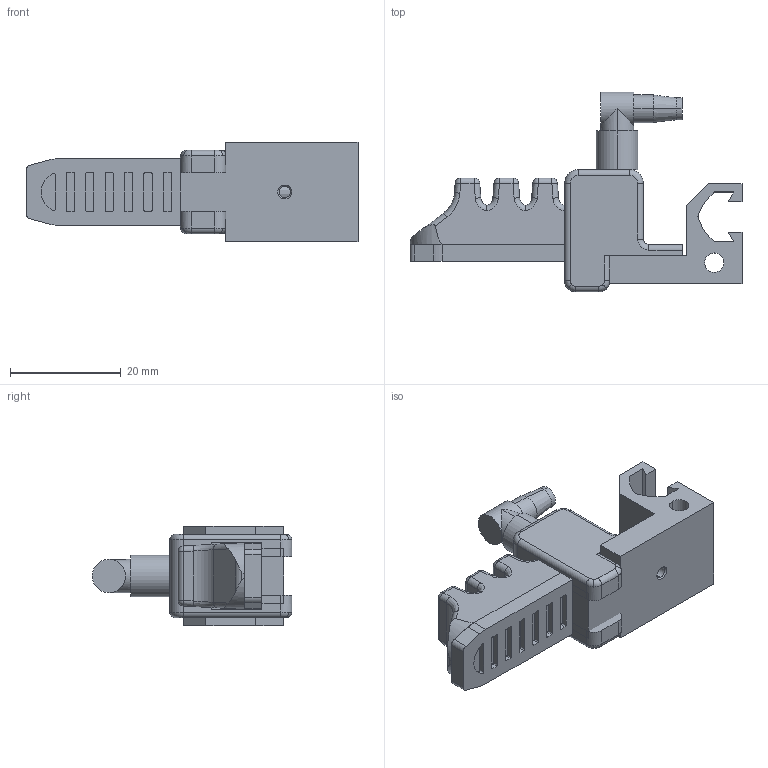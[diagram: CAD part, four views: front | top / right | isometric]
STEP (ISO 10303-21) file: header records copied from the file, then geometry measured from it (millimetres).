
FILE_DESCRIPTION (( 'STEP AP214' ), '1' );
FILE_NAME ('GFM-C4V5.STEP', '2019-12-04T05:56:12', ( '微软用户' ), ( '微软中国' ), 'SwSTEP 2.0', 'SolidWorks 2016', '' );
FILE_SCHEMA (( 'AUTOMOTIVE_DESIGN' ));
Length unit declared in the file: millimetre
Products named in the file (1): GFM-C4V5
Bounding box: 59.85 x 36 x 18 mm (x, y, z)
Volume: 11280.4 mm3; surface area: 8411 mm2
Topology: 4 solids, 4 shells, 287 faces, 692 edges, 424 vertices
Faces by surface type: cylinder 128, plane 109, sphere 14, bspline 14, torus 14, cone 8
Entity records: 12534 total; most frequent: CARTESIAN_POINT 2633, DIRECTION 1426, ORIENTED_EDGE 1384, EDGE_CURVE 692, AXIS2_PLACEMENT_3D 521, VERTEX_POINT 424, LINE 384, VECTOR 384
